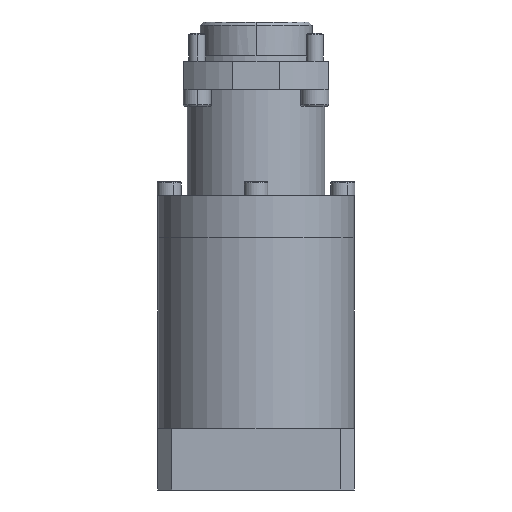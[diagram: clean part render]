
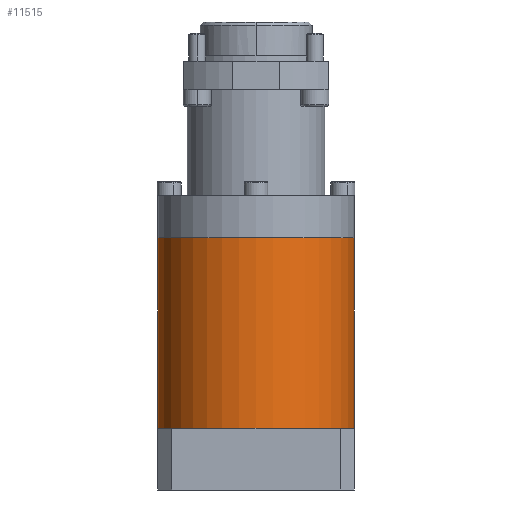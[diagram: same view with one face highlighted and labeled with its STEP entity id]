
A CAD part, front view. The second image highlights one B-rep face of the part: STEP entity #11515.
In plain terms, the highlighted cylindrical face has radius 35 mm (diameter 70 mm), a partial arc.
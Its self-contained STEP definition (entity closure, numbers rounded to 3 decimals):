
#122 = CIRCLE ( 'NONE', #2952, 35. ) ;
#178 = VECTOR ( 'NONE', #1540, 1000. ) ;
#228 = DIRECTION ( 'NONE',  ( 0., 0., -1. ) ) ;
#382 = EDGE_CURVE ( 'NONE', #10719, #6748, #2578, .T. ) ;
#642 = CARTESIAN_POINT ( 'NONE',  ( 35., 0., -105.5 ) ) ;
#696 = DIRECTION ( 'NONE',  ( -1., 0., 0. ) ) ;
#790 = AXIS2_PLACEMENT_3D ( 'NONE', #2754, #4842, #696 ) ;
#1204 = CIRCLE ( 'NONE', #1652, 35. ) ;
#1502 = ORIENTED_EDGE ( 'NONE', *, *, #13177, .T. ) ;
#1540 = DIRECTION ( 'NONE',  ( 0., 0., -1. ) ) ;
#1652 = AXIS2_PLACEMENT_3D ( 'NONE', #12183, #6099, #13172 ) ;
#2578 = LINE ( 'NONE', #642, #178 ) ;
#2595 = EDGE_CURVE ( 'NONE', #4074, #10719, #1204, .T. ) ;
#2754 = CARTESIAN_POINT ( 'NONE',  ( 0., 0., -105.5 ) ) ;
#2913 = EDGE_LOOP ( 'NONE', ( #5700, #3803, #6570, #8078, #1502 ) ) ;
#2952 = AXIS2_PLACEMENT_3D ( 'NONE', #5664, #12758, #6705 ) ;
#3563 = EDGE_CURVE ( 'NONE', #9727, #6874, #5038, .T. ) ;
#3803 = ORIENTED_EDGE ( 'NONE', *, *, #2595, .F. ) ;
#4074 = VERTEX_POINT ( 'NONE', #10941 ) ;
#4639 = CARTESIAN_POINT ( 'NONE',  ( 0., 0., -173.5 ) ) ;
#4842 = DIRECTION ( 'NONE',  ( 0., 0., -1. ) ) ;
#5038 = CIRCLE ( 'NONE', #6835, 35. ) ;
#5662 = DIRECTION ( 'NONE',  ( 1., 0., 0. ) ) ;
#5664 = CARTESIAN_POINT ( 'NONE',  ( 0., 0., -173.5 ) ) ;
#5700 = ORIENTED_EDGE ( 'NONE', *, *, #382, .F. ) ;
#6099 = DIRECTION ( 'NONE',  ( 0., 0., 1. ) ) ;
#6393 = CARTESIAN_POINT ( 'NONE',  ( -35., 0., -105.5 ) ) ;
#6570 = ORIENTED_EDGE ( 'NONE', *, *, #7269, .T. ) ;
#6705 = DIRECTION ( 'NONE',  ( 1., 0., 0. ) ) ;
#6748 = VERTEX_POINT ( 'NONE', #10151 ) ;
#6829 = LINE ( 'NONE', #6393, #12835 ) ;
#6835 = AXIS2_PLACEMENT_3D ( 'NONE', #4639, #11770, #5662 ) ;
#6874 = VERTEX_POINT ( 'NONE', #7271 ) ;
#7269 = EDGE_CURVE ( 'NONE', #4074, #9727, #6829, .T. ) ;
#7271 = CARTESIAN_POINT ( 'NONE',  ( 0., -35., -173.5 ) ) ;
#7760 = FACE_OUTER_BOUND ( 'NONE', #2913, .T. ) ;
#8078 = ORIENTED_EDGE ( 'NONE', *, *, #3563, .T. ) ;
#8221 = CARTESIAN_POINT ( 'NONE',  ( -35., 0., -173.5 ) ) ;
#9357 = CARTESIAN_POINT ( 'NONE',  ( 35., 0., -105.5 ) ) ;
#9727 = VERTEX_POINT ( 'NONE', #8221 ) ;
#10151 = CARTESIAN_POINT ( 'NONE',  ( 35., 0., -173.5 ) ) ;
#10197 = CYLINDRICAL_SURFACE ( 'NONE', #790, 35. ) ;
#10719 = VERTEX_POINT ( 'NONE', #9357 ) ;
#10941 = CARTESIAN_POINT ( 'NONE',  ( -35., 0., -105.5 ) ) ;
#11515 = ADVANCED_FACE ( 'NONE', ( #7760 ), #10197, .T. ) ;
#11770 = DIRECTION ( 'NONE',  ( 0., 0., 1. ) ) ;
#12183 = CARTESIAN_POINT ( 'NONE',  ( 0., 0., -105.5 ) ) ;
#12758 = DIRECTION ( 'NONE',  ( 0., 0., 1. ) ) ;
#12835 = VECTOR ( 'NONE', #228, 1000. ) ;
#13172 = DIRECTION ( 'NONE',  ( 1., 0., 0. ) ) ;
#13177 = EDGE_CURVE ( 'NONE', #6874, #6748, #122, .T. ) ;
